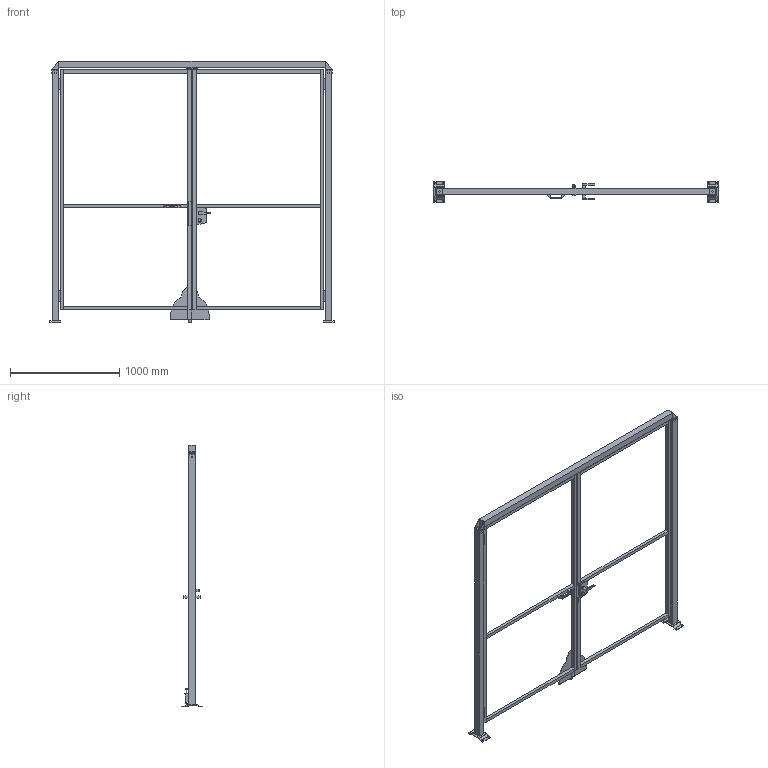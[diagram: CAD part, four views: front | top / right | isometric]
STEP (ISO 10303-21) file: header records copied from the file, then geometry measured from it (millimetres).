
FILE_DESCRIPTION(/* description */ (''),/* implementation_level */ '2;1');
FILE_NAME(/* name */ 'C:\SafeGuarding\ELABORATI\VZOR§GAMMA_2025-02-03-12-05-28.stp',/* time_stamp */ '2025-02-03T12:05:33+01:00',/* author */ ('admin'),/* organization */ (''),/* preprocessor_version */ 'ST-DEVELOPER v18.1',/* originating_system */ 'AutoCAD Mechanical',/* authorisation */ '');
FILE_SCHEMA (('AUTOMOTIVE_DESIGN { 1 0 10303 214 3 1 1 }'));
Length unit declared in the file: millimetre
Products named in the file (5): Product; *U4; DATI_PORTA; P_VFMA.ME60SDU.2320; R_VFPA.REPE30.12002200
Assembly tree (6 placements, depth 2):
  Product
    R_VFPA.REPE30.12002200  x2
    P_VFMA.ME60SDU.2320  x2
    *U4
    DATI_PORTA
Bounding box: 2605 x 192 x 2400.5 mm (x, y, z)
Volume: 41248696.5 mm3; surface area: 4245886.9 mm2
Topology: 38 solids, 49 shells, 429 faces, 1365 edges, 1346 vertices
Faces by surface type: plane 353, cylinder 71, bspline 4, cone 1
Full cylindrical faces by diameter (mm): 11 x25, 14 x2, 24 x1, 25 x2, 25.398 x2
Entity records: 13380 total; most frequent: CARTESIAN_POINT 3854, DIRECTION 1867, ORIENTED_EDGE 1688, EDGE_CURVE 893, LINE 773, VECTOR 773, VERTEX_POINT 632, AXIS2_PLACEMENT_3D 547
